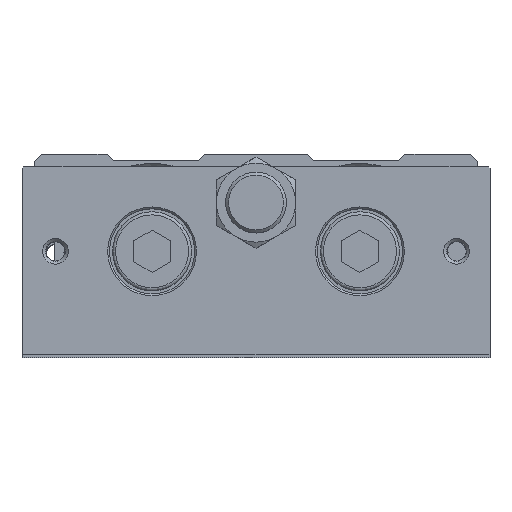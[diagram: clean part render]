
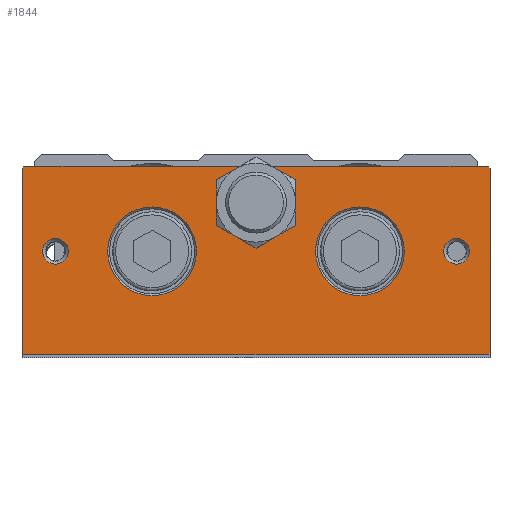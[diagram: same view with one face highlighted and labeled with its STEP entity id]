
A CAD part, top view. The second image highlights one B-rep face of the part: STEP entity #1844.
In plain terms, the highlighted planar face has unit normal (0, 0, 1).
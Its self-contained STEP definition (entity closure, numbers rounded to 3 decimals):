
#1642=CARTESIAN_POINT('',(-38.2,-17.5,179.0));
#1643=VERTEX_POINT('',#1642);
#1650=CARTESIAN_POINT('',(-38.5,-17.2,179.0));
#1651=VERTEX_POINT('',#1650);
#1652=CARTESIAN_POINT('',(-38.2,-17.5,179.0));
#1653=DIRECTION('',(-0.707,0.707,0.0));
#1654=VECTOR('',#1653,0.424);
#1655=LINE('',#1652,#1654);
#1656=EDGE_CURVE('',#1643,#1651,#1655,.T.);
#1667=CARTESIAN_POINT('',(0.0,-17.5,179.0));
#1668=DIRECTION('',(0.0,0.0,1.0));
#1669=DIRECTION('',(1.0,0.0,0.0));
#1670=AXIS2_PLACEMENT_3D('',#1667,#1668,#1669);
#1671=PLANE('',#1670);
#1672=ORIENTED_EDGE('',*,*,#1656,.F.);
#1673=CARTESIAN_POINT('',(38.2,-17.5,179.0));
#1674=VERTEX_POINT('',#1673);
#1675=CARTESIAN_POINT('',(-38.2,-17.5,179.0));
#1676=DIRECTION('',(1.0,0.0,0.0));
#1677=VECTOR('',#1676,76.4);
#1678=LINE('',#1675,#1677);
#1679=EDGE_CURVE('',#1643,#1674,#1678,.T.);
#1680=ORIENTED_EDGE('',*,*,#1679,.T.);
#1681=CARTESIAN_POINT('',(38.5,-17.2,179.0));
#1682=VERTEX_POINT('',#1681);
#1683=CARTESIAN_POINT('',(38.5,-17.2,179.0));
#1684=DIRECTION('',(-0.707,-0.707,0.0));
#1685=VECTOR('',#1684,0.424);
#1686=LINE('',#1683,#1685);
#1687=EDGE_CURVE('',#1682,#1674,#1686,.T.);
#1688=ORIENTED_EDGE('',*,*,#1687,.F.);
#1689=CARTESIAN_POINT('',(38.5,13.2,179.0));
#1690=VERTEX_POINT('',#1689);
#1691=CARTESIAN_POINT('',(38.5,-17.2,179.0));
#1692=DIRECTION('',(0.0,1.0,0.0));
#1693=VECTOR('',#1692,30.4);
#1694=LINE('',#1691,#1693);
#1695=EDGE_CURVE('',#1682,#1690,#1694,.T.);
#1696=ORIENTED_EDGE('',*,*,#1695,.T.);
#1697=CARTESIAN_POINT('',(38.2,13.5,179.0));
#1698=VERTEX_POINT('',#1697);
#1699=CARTESIAN_POINT('',(38.2,13.5,179.0));
#1700=DIRECTION('',(0.707,-0.707,0.0));
#1701=VECTOR('',#1700,0.424);
#1702=LINE('',#1699,#1701);
#1703=EDGE_CURVE('',#1698,#1690,#1702,.T.);
#1704=ORIENTED_EDGE('',*,*,#1703,.F.);
#1705=CARTESIAN_POINT('',(2.5,13.5,179.0));
#1706=VERTEX_POINT('',#1705);
#1707=CARTESIAN_POINT('',(38.2,13.5,179.0));
#1708=DIRECTION('',(-1.0,0.0,0.0));
#1709=VECTOR('',#1708,35.7);
#1710=LINE('',#1707,#1709);
#1711=EDGE_CURVE('',#1698,#1706,#1710,.T.);
#1712=ORIENTED_EDGE('',*,*,#1711,.T.);
#1713=CARTESIAN_POINT('',(3.25,13.129,179.0));
#1714=VERTEX_POINT('',#1713);
#1715=CARTESIAN_POINT('',(0.0,7.5,179.0));
#1716=DIRECTION('',(0.0,0.0,1.0));
#1717=DIRECTION('',(0.0,1.0,0.0));
#1718=AXIS2_PLACEMENT_3D('',#1715,#1716,#1717);
#1719=CIRCLE('',#1718,6.5);
#1720=EDGE_CURVE('',#1714,#1706,#1719,.T.);
#1721=ORIENTED_EDGE('',*,*,#1720,.F.);
#1722=CARTESIAN_POINT('',(6.5,7.5,179.0));
#1723=VERTEX_POINT('',#1722);
#1724=CARTESIAN_POINT('',(0.0,7.5,179.0));
#1725=DIRECTION('',(0.0,0.0,1.0));
#1726=DIRECTION('',(0.0,1.0,0.0));
#1727=AXIS2_PLACEMENT_3D('',#1724,#1725,#1726);
#1728=CIRCLE('',#1727,6.5);
#1729=EDGE_CURVE('',#1723,#1714,#1728,.T.);
#1730=ORIENTED_EDGE('',*,*,#1729,.F.);
#1731=CARTESIAN_POINT('',(3.25,1.871,179.0));
#1732=VERTEX_POINT('',#1731);
#1733=CARTESIAN_POINT('',(0.0,7.5,179.0));
#1734=DIRECTION('',(0.0,0.0,1.0));
#1735=DIRECTION('',(0.0,1.0,0.0));
#1736=AXIS2_PLACEMENT_3D('',#1733,#1734,#1735);
#1737=CIRCLE('',#1736,6.5);
#1738=EDGE_CURVE('',#1732,#1723,#1737,.T.);
#1739=ORIENTED_EDGE('',*,*,#1738,.F.);
#1740=CARTESIAN_POINT('',(-3.25,1.871,179.0));
#1741=VERTEX_POINT('',#1740);
#1742=CARTESIAN_POINT('',(0.0,7.5,179.0));
#1743=DIRECTION('',(0.0,0.0,1.0));
#1744=DIRECTION('',(0.0,1.0,0.0));
#1745=AXIS2_PLACEMENT_3D('',#1742,#1743,#1744);
#1746=CIRCLE('',#1745,6.5);
#1747=EDGE_CURVE('',#1741,#1732,#1746,.T.);
#1748=ORIENTED_EDGE('',*,*,#1747,.F.);
#1749=CARTESIAN_POINT('',(-6.5,7.5,179.0));
#1750=VERTEX_POINT('',#1749);
#1751=CARTESIAN_POINT('',(0.0,7.5,179.0));
#1752=DIRECTION('',(0.0,0.0,1.0));
#1753=DIRECTION('',(0.0,1.0,0.0));
#1754=AXIS2_PLACEMENT_3D('',#1751,#1752,#1753);
#1755=CIRCLE('',#1754,6.5);
#1756=EDGE_CURVE('',#1750,#1741,#1755,.T.);
#1757=ORIENTED_EDGE('',*,*,#1756,.F.);
#1758=CARTESIAN_POINT('',(-3.25,13.129,179.0));
#1759=VERTEX_POINT('',#1758);
#1760=CARTESIAN_POINT('',(0.0,7.5,179.0));
#1761=DIRECTION('',(0.0,0.0,1.0));
#1762=DIRECTION('',(0.0,1.0,0.0));
#1763=AXIS2_PLACEMENT_3D('',#1760,#1761,#1762);
#1764=CIRCLE('',#1763,6.5);
#1765=EDGE_CURVE('',#1759,#1750,#1764,.T.);
#1766=ORIENTED_EDGE('',*,*,#1765,.F.);
#1767=CARTESIAN_POINT('',(-2.5,13.5,179.0));
#1768=VERTEX_POINT('',#1767);
#1769=CARTESIAN_POINT('',(0.0,7.5,179.0));
#1770=DIRECTION('',(0.0,0.0,1.0));
#1771=DIRECTION('',(0.0,1.0,0.0));
#1772=AXIS2_PLACEMENT_3D('',#1769,#1770,#1771);
#1773=CIRCLE('',#1772,6.5);
#1774=EDGE_CURVE('',#1768,#1759,#1773,.T.);
#1775=ORIENTED_EDGE('',*,*,#1774,.F.);
#1776=CARTESIAN_POINT('',(-38.2,13.5,179.0));
#1777=VERTEX_POINT('',#1776);
#1778=CARTESIAN_POINT('',(-2.5,13.5,179.0));
#1779=DIRECTION('',(-1.0,0.0,0.0));
#1780=VECTOR('',#1779,35.7);
#1781=LINE('',#1778,#1780);
#1782=EDGE_CURVE('',#1768,#1777,#1781,.T.);
#1783=ORIENTED_EDGE('',*,*,#1782,.T.);
#1784=CARTESIAN_POINT('',(-38.5,13.2,179.0));
#1785=VERTEX_POINT('',#1784);
#1786=CARTESIAN_POINT('',(-38.5,13.2,179.0));
#1787=DIRECTION('',(0.707,0.707,0.0));
#1788=VECTOR('',#1787,0.424);
#1789=LINE('',#1786,#1788);
#1790=EDGE_CURVE('',#1785,#1777,#1789,.T.);
#1791=ORIENTED_EDGE('',*,*,#1790,.F.);
#1792=CARTESIAN_POINT('',(-38.5,13.2,179.0));
#1793=DIRECTION('',(0.0,-1.0,0.0));
#1794=VECTOR('',#1793,30.4);
#1795=LINE('',#1792,#1794);
#1796=EDGE_CURVE('',#1785,#1651,#1795,.T.);
#1797=ORIENTED_EDGE('',*,*,#1796,.T.);
#1798=EDGE_LOOP('',(#1672,#1680,#1688,#1696,#1704,#1712,#1721,#1730,#1739,#1748,#1757,#1766,#1775,#1783,#1791,#1797));
#1799=FACE_OUTER_BOUND('',#1798,.T.);
#1800=CARTESIAN_POINT('',(-9.8,-0.5,179.0));
#1801=VERTEX_POINT('',#1800);
#1802=CARTESIAN_POINT('',(-17.1,-0.5,179.0));
#1803=DIRECTION('',(0.0,0.0,1.0));
#1804=DIRECTION('',(-1.0,0.0,0.0));
#1805=AXIS2_PLACEMENT_3D('',#1802,#1803,#1804);
#1806=CIRCLE('',#1805,7.3);
#1807=EDGE_CURVE('',#1801,#1801,#1806,.T.);
#1808=ORIENTED_EDGE('',*,*,#1807,.F.);
#1809=EDGE_LOOP('',(#1808));
#1810=FACE_BOUND('',#1809,.T.);
#1811=CARTESIAN_POINT('',(35.121,-0.5,179.0));
#1812=VERTEX_POINT('',#1811);
#1813=CARTESIAN_POINT('',(33.0,-0.5,179.0));
#1814=DIRECTION('',(0.0,0.0,1.0));
#1815=DIRECTION('',(-1.0,0.0,0.0));
#1816=AXIS2_PLACEMENT_3D('',#1813,#1814,#1815);
#1817=CIRCLE('',#1816,2.121);
#1818=EDGE_CURVE('',#1812,#1812,#1817,.T.);
#1819=ORIENTED_EDGE('',*,*,#1818,.F.);
#1820=EDGE_LOOP('',(#1819));
#1821=FACE_BOUND('',#1820,.T.);
#1822=CARTESIAN_POINT('',(-30.879,-0.5,179.0));
#1823=VERTEX_POINT('',#1822);
#1824=CARTESIAN_POINT('',(-33.0,-0.5,179.0));
#1825=DIRECTION('',(0.0,0.0,1.0));
#1826=DIRECTION('',(-1.0,0.0,0.0));
#1827=AXIS2_PLACEMENT_3D('',#1824,#1825,#1826);
#1828=CIRCLE('',#1827,2.121);
#1829=EDGE_CURVE('',#1823,#1823,#1828,.T.);
#1830=ORIENTED_EDGE('',*,*,#1829,.F.);
#1831=EDGE_LOOP('',(#1830));
#1832=FACE_BOUND('',#1831,.T.);
#1833=CARTESIAN_POINT('',(24.4,-0.5,179.0));
#1834=VERTEX_POINT('',#1833);
#1835=CARTESIAN_POINT('',(17.1,-0.5,179.0));
#1836=DIRECTION('',(0.0,0.0,1.0));
#1837=DIRECTION('',(-1.0,0.0,0.0));
#1838=AXIS2_PLACEMENT_3D('',#1835,#1836,#1837);
#1839=CIRCLE('',#1838,7.3);
#1840=EDGE_CURVE('',#1834,#1834,#1839,.T.);
#1841=ORIENTED_EDGE('',*,*,#1840,.F.);
#1842=EDGE_LOOP('',(#1841));
#1843=FACE_BOUND('',#1842,.T.);
#1844=ADVANCED_FACE('',(#1799,#1810,#1821,#1832,#1843),#1671,.T.);
